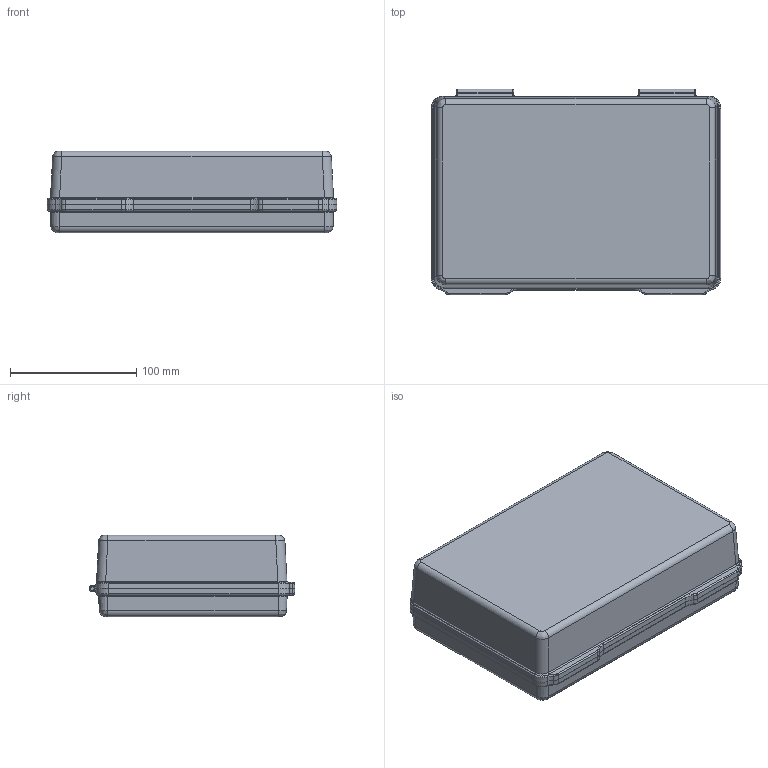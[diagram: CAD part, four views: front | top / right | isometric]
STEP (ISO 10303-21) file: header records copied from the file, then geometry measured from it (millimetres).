
FILE_DESCRIPTION(/* description */ (''),/* implementation_level */ '2;1');
FILE_NAME(/* name */ 'B2_Case_OT-UT.stp',/* time_stamp */ '2014-10-06T09:36:30+02:00',/* author */ (''),/* organization */ (''),/* preprocessor_version */ 'ST-DEVELOPER v15',/* originating_system */ 'SIEMENS PLM Software NX 8.5',/* authorisation */ '');
FILE_SCHEMA (('AUTOMOTIVE_DESIGN { 1 0 10303 214 3 1 1 1 }'));
Length unit declared in the file: millimetre
Products named in the file (1): pk1A9099730gwe
Bounding box: 229 x 162.56 x 64.5 mm (x, y, z)
Volume: 262030.5 mm3; surface area: 226068.2 mm2
Topology: 2 solids, 2 shells, 332 faces, 800 edges, 464 vertices
Faces by surface type: cylinder 118, bspline 82, plane 64, torus 42, cone 26
Entity records: 11011 total; most frequent: CARTESIAN_POINT 3665, ORIENTED_EDGE 1580, DIRECTION 1522, EDGE_CURVE 790, AXIS2_PLACEMENT_3D 605, VERTEX_POINT 464, EDGE_LOOP 334, ADVANCED_FACE 332
